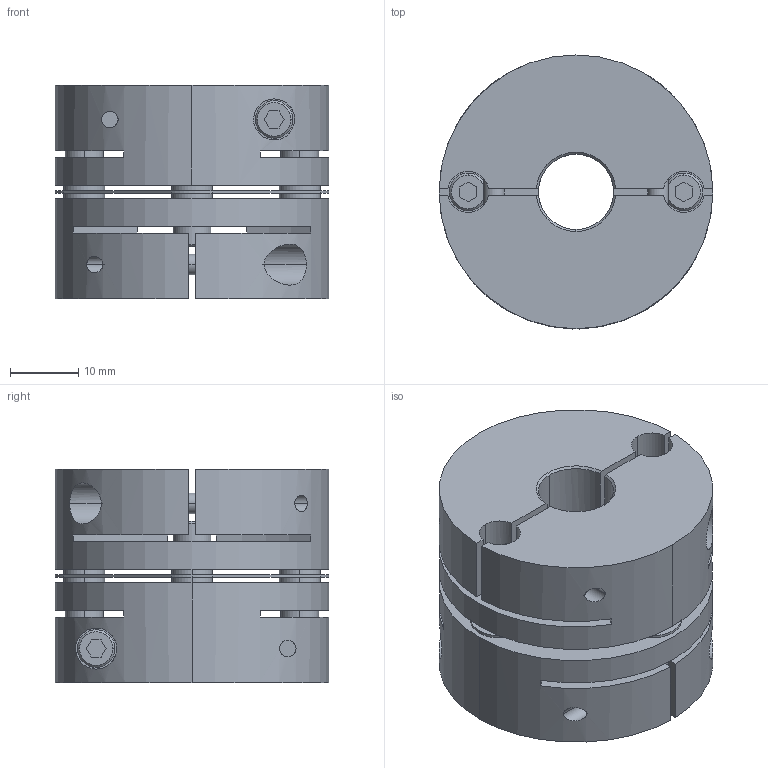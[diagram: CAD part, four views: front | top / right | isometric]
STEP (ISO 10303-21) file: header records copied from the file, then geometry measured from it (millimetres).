
FILE_DESCRIPTION((''),'2;1');
FILE_NAME('LAS-40C-11×19.stp','2011-08-11T08:57:38',(''),(''),'AutoCAD STEP 2000i','AutoCAD 2000i',', , ');
FILE_SCHEMA(('CONFIG_CONTROL_DESIGN'));
Length unit declared in the file: millimetre
Products named in the file (6): LAS-40C-10×15; 忣兜1; LA-4002-D15; LA-4002-D10-1; LA-4002-D10; LAS40-ITA
Assembly tree (5 placements, depth 2):
  LAS-40C-10×15
    忣兜1
    LA-4002-D15
    LA-4002-D10-1
    LA-4002-D10
    LAS40-ITA
Bounding box: 40 x 40 x 31.2 mm (x, y, z)
Volume: 28656.9 mm3; surface area: 15088.6 mm2
Topology: 1 solids, 1 shells, 236 faces, 624 edges, 408 vertices
Faces by surface type: plane 112, cylinder 96, cone 28
Entity records: 8177 total; most frequent: CARTESIAN_POINT 1970, DIRECTION 1304, ORIENTED_EDGE 1248, EDGE_CURVE 624, AXIS2_PLACEMENT_3D 478, VERTEX_POINT 408, VECTOR 348, LINE 348
